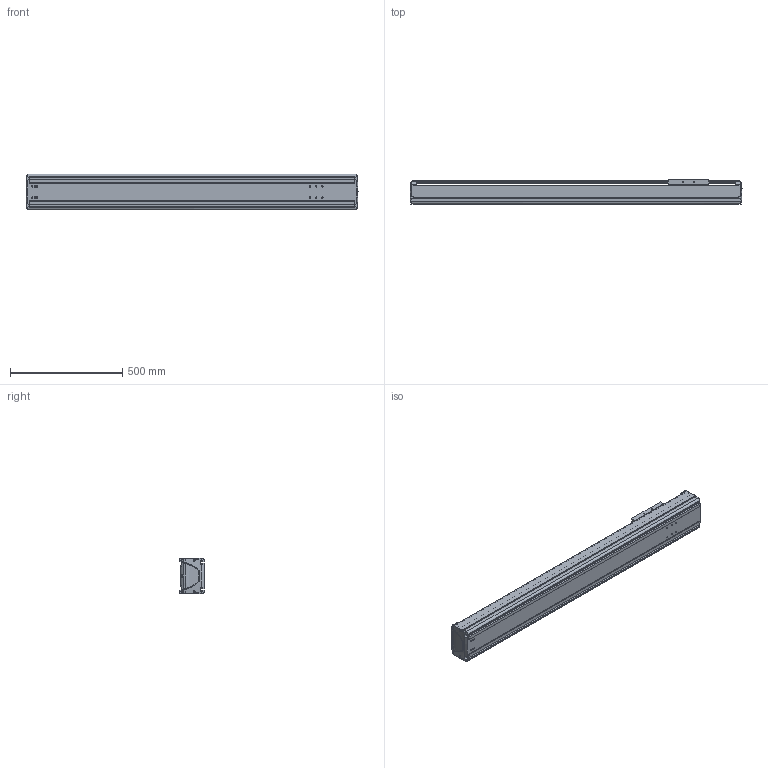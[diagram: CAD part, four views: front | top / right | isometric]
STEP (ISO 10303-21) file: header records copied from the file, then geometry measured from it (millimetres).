
FILE_DESCRIPTION((''),'2;1');
FILE_NAME('BE50G-ST-M_N-B0_IGS_PRT','2017-06-18T',(' '),(''),'PRO/ENGINEER BY PARAMETRIC TECHNOLOGY CORPORATION, 2015030','PRO/ENGINEER BY PARAMETRIC TECHNOLOGY CORPORATION, 2015030','');
FILE_SCHEMA(('CONFIG_CONTROL_DESIGN'));
Length unit declared in the file: millimetre
Products named in the file (1): BE50G-ST-M_N-B0_IGS_PRT
Bounding box: 1479.98 x 110 x 160 mm (x, y, z)
Volume: 6514990.6 mm3; surface area: 2231738 mm2
Topology: 2 solids, 91 shells, 1672 faces, 4446 edges, 2851 vertices
Faces by surface type: cylinder 738, plane 629, bspline 102, torus 87, cone 76, sphere 40
Entity records: 57640 total; most frequent: CARTESIAN_POINT 16565, ORIENTED_EDGE 8476, DIRECTION 8384, EDGE_CURVE 4416, AXIS2_PLACEMENT_3D 3134, VERTEX_POINT 2843, VECTOR 2116, LINE 2116
